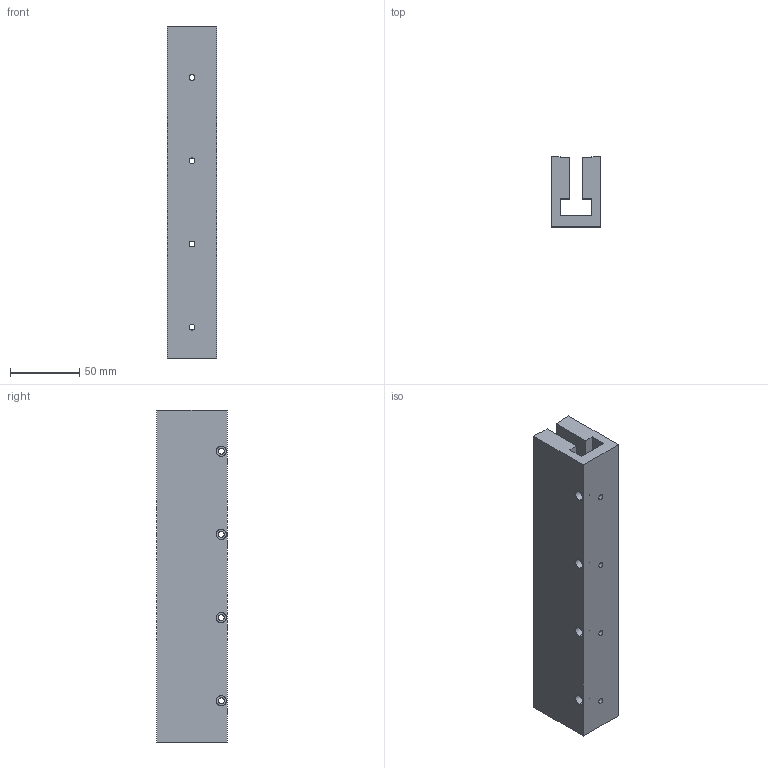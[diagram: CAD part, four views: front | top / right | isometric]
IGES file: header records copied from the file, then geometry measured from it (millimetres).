
Start section: SolidWorks IGES file using analytic representation for surfaces
Bounding box: 35.7 x 50.8 x 239.5 mm (x, y, z)
Surface area: 73528.4 mm2 (no closed solid volume)
Topology: 0 solids, 0 shells, 58 faces, 1248 edges, 1248 vertices
Faces by surface type: revolution 32, bspline 26
